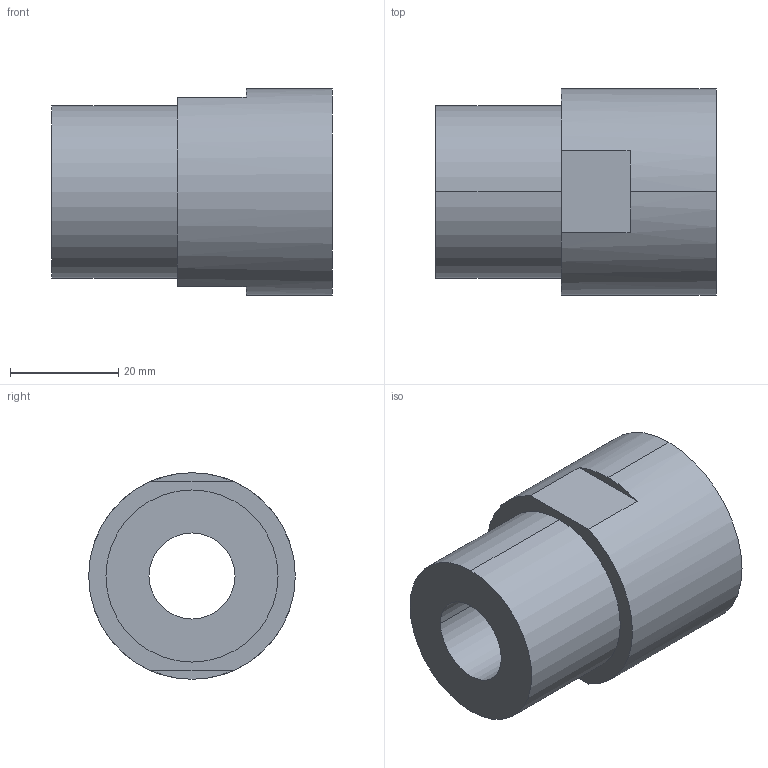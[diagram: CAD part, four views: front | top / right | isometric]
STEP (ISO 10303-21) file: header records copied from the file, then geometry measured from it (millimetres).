
FILE_DESCRIPTION (( 'STEP AP214' ), '1' );
FILE_NAME ('Fitting FNPT 12.STEP', '2012-11-12T17:37:15', ( '' ), ( '' ), 'SwSTEP 2.0', 'SolidWorks 2012', '' );
FILE_SCHEMA (( 'AUTOMOTIVE_DESIGN' ));
Length unit declared in the file: inch
Products named in the file (1): Fitting FNPT 12
Bounding box: 51.69 x 38.1 x 38.1 mm (x, y, z)
Volume: 37657.4 mm3; surface area: 10461.5 mm2
Topology: 1 solids, 1 shells, 18 faces, 40 edges, 26 vertices
Faces by surface type: cylinder 8, plane 8, cone 2
Entity records: 593 total; most frequent: DIRECTION 100, CARTESIAN_POINT 85, ORIENTED_EDGE 80, AXIS2_PLACEMENT_3D 41, EDGE_CURVE 40, VERTEX_POINT 26, EDGE_LOOP 22, CIRCLE 22
